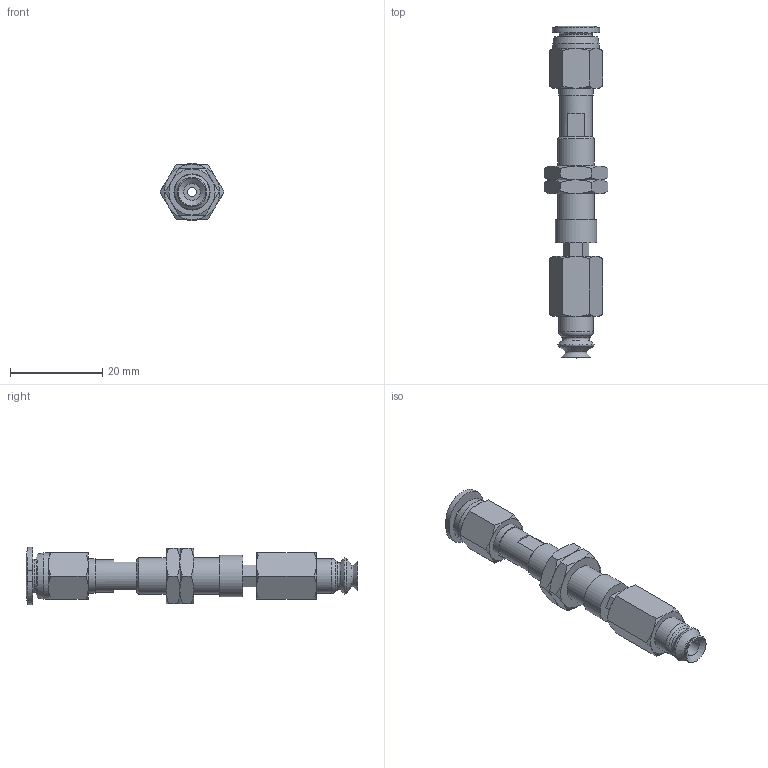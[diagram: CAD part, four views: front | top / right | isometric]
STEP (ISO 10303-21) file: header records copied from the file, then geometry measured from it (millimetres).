
FILE_DESCRIPTION(('STEP AP203'),'1');
FILE_NAME('-O.stp','2025-08-27T06:17:23',(' '),(' '),'Spatial InterOp 3D',' ',' ');
FILE_SCHEMA(('CONFIG_CONTROL_DESIGN'));
Length unit declared in the file: millimetre
Products named in the file (7): BNABPJTH-6-3-※-O; NAPJH-6-3-NUT; NAPJTH-6-3-FBODY; BPJG-6-※; PC-C_06-M5; ADAPTER; NAPATH-10A-3--M
Assembly tree (7 placements, depth 2):
  BNABPJTH-6-3-※-O
    NAPJH-6-3-NUT  x2
    NAPJTH-6-3-FBODY
    BPJG-6-※
    PC-C_06-M5
    ADAPTER
    NAPATH-10A-3--M
Bounding box: 13.86 x 71.98 x 12.4 mm (x, y, z)
Volume: 3285.9 mm3; surface area: 4987.8 mm2
Topology: 6 solids, 9 shells, 176 faces, 376 edges, 228 vertices
Faces by surface type: plane 68, cone 65, cylinder 23, torus 13, bspline 4, revolution 3
Full cylindrical faces by diameter (mm): 2 x2, 3.64 x1, 4 x4, 4.134 x1, 5 x1, 6 x2, 7 x2, 7.188 x2, 7.4 x1, 7.5 x1, 8 x1, 8.2 x1, 9 x1, 10 x1
Entity records: 4532 total; most frequent: CARTESIAN_POINT 1250, DIRECTION 607, ORIENTED_EDGE 526, EDGE_CURVE 265, AXIS2_PLACEMENT_3D 264, EDGE_LOOP 226, VERTEX_POINT 187, FACE_OUTER_BOUND 126
